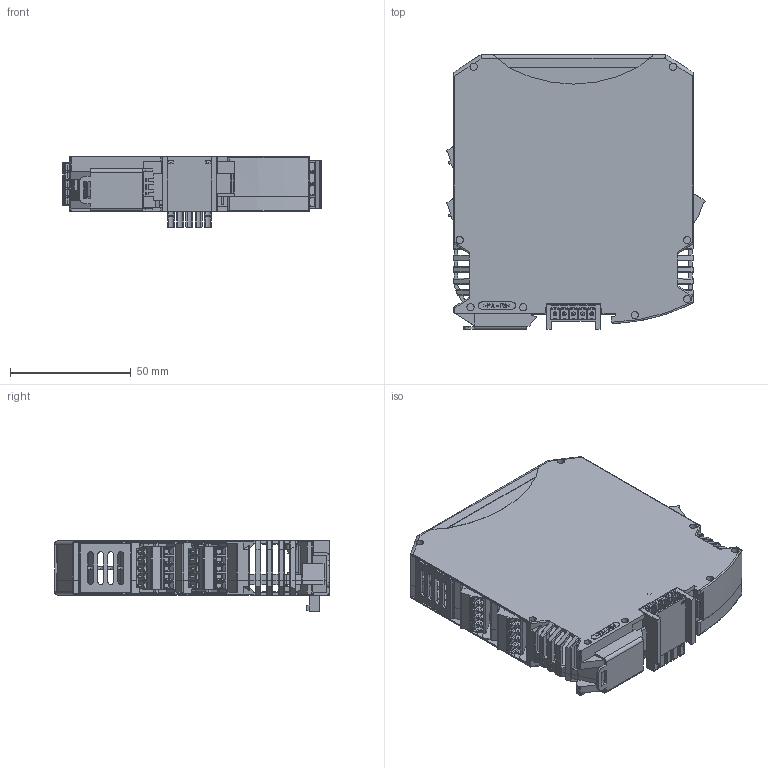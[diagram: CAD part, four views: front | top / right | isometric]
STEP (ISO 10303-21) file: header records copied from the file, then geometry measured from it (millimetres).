
FILE_DESCRIPTION (( 'STEP AP203' ), '1' );
FILE_NAME ('240-2P_STEP.STEP', '2020-09-22T15:43:54', ( '' ), ( '' ), 'SwSTEP 2.0', 'SolidWorks 2020', '' );
FILE_SCHEMA (( 'CONFIG_CONTROL_DESIGN' ));
Length unit declared in the file: millimetre
Products named in the file (20): G-106-794; Phoenix_2707929; 564-16-00_C^107-067; 107-067-DET-01; 107-070; G-106-791; ME_MAX_22.5_GEH-R_CL_3-3_H.Select__00472372; 107-068; 107-071; 240 Display Assembly; 102-170; 107-069; G-106-793; ME_MAX_GEH-L_CL_3-3_H.Select__00472374; Fussriegel_17.5_L30_H.Select__00315466_1; ME_MAX_22.5_DKL_CL_H.Select__00472368.1; 107-067; 240-2P_STEP
Assembly tree (20 placements, depth 4):
  564-16-00_C^107-067
  240-2P_STEP
    107-071
      ME_MAX_22.5_GEH-R_CL_3-3_H.Select__00472372
      ME_MAX_22.5_DKL_CL_H.Select__00472368.1
      ME_MAX_GEH-L_CL_3-3_H.Select__00472374
      Fussriegel_17.5_L30_H.Select__00315466_1
    240 Display Assembly
      107-070
      102-170
      107-067
        107-067-DET-01
    107-069
      Phoenix_2707929
    107-068
      Phoenix_2707929
    107-069
      Phoenix_2707929
    G-106-794
    G-106-793  x2
    G-106-791
Bounding box: 107.07 x 113.6 x 29.22 mm (x, y, z)
Volume: 58742.4 mm3; surface area: 84326.2 mm2
Topology: 16 solids, 16 shells, 3159 faces, 8733 edges, 5732 vertices
Faces by surface type: plane 2339, cylinder 735, bspline 53, cone 32
Entity records: 92253 total; most frequent: CARTESIAN_POINT 20636, ORIENTED_EDGE 15174, DIRECTION 13301, EDGE_CURVE 7587, VECTOR 6029, LINE 6029, VERTEX_POINT 4981, AXIS2_PLACEMENT_3D 3636
